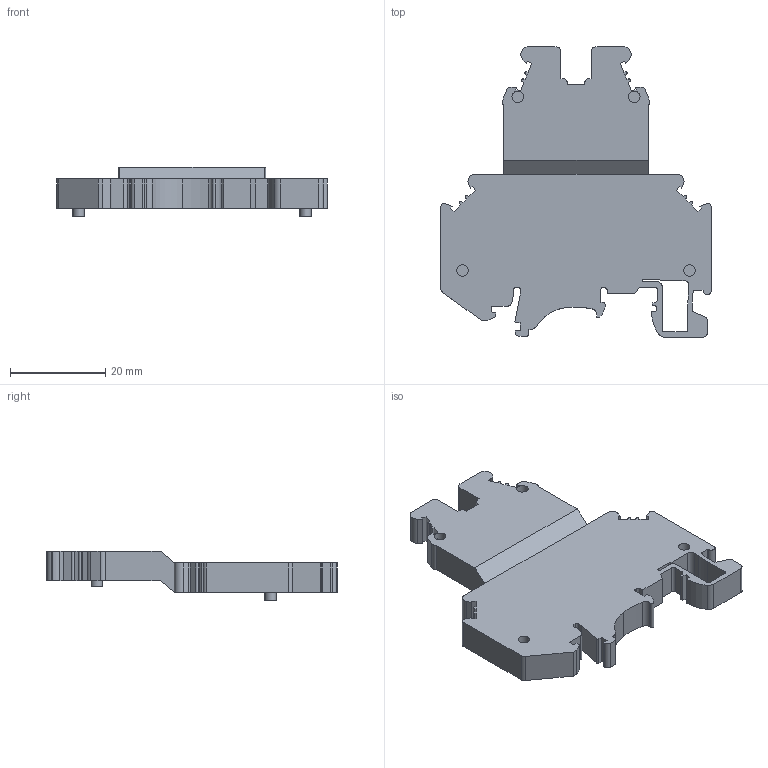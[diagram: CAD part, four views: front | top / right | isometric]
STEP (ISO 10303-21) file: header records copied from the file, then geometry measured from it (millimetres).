
FILE_DESCRIPTION(/* description */ (''),/* implementation_level */ '2;1');
FILE_NAME(/* name */ 'UT1-4-2(T).stp',/* time_stamp */ '2023-02-14T13:32:56+08:00',/* author */ (''),/* organization */ (''),/* preprocessor_version */ 'ST-DEVELOPER v16.7',/* originating_system */ 'SIEMENS PLM Software NX 12.0',/* authorisation */ '');
FILE_SCHEMA (('AP203_CONFIGURATION_CONTROLLED_3D_DESIGN_OF_MECHANICAL_PARTS_AND_ASSEMBLIES_MIM_LF { 1 0 10303 403 2 1 2}'));
Length unit declared in the file: millimetre
Products named in the file (1): Admi01CC23451nhn
Bounding box: 56.8 x 61 x 10.5 mm (x, y, z)
Volume: 13062.8 mm3; surface area: 7087.9 mm2
Topology: 1 solids, 1 shells, 207 faces, 575 edges, 382 vertices
Faces by surface type: plane 138, cylinder 69
Full cylindrical faces by diameter (mm): 2.4 x8, 4.4 x4
Entity records: 6662 total; most frequent: CARTESIAN_POINT 1156, ORIENTED_EDGE 1126, DIRECTION 1116, EDGE_CURVE 563, LINE 424, VECTOR 424, VERTEX_POINT 382, AXIS2_PLACEMENT_3D 346
